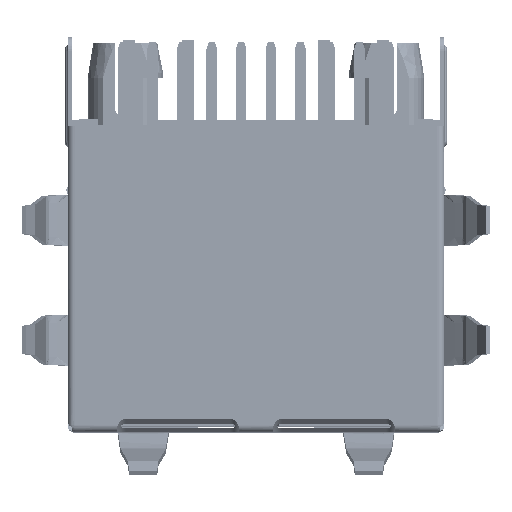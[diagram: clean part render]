
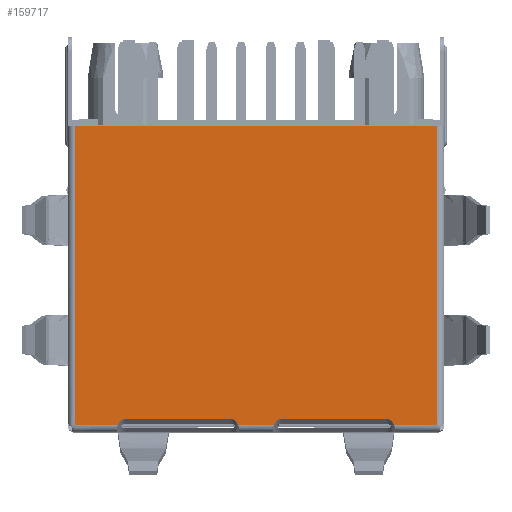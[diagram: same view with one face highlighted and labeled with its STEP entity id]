
A CAD part, top view. The second image highlights one B-rep face of the part: STEP entity #159717.
In plain terms, the highlighted planar face has unit normal (0, 0, 1) as drawn and (1, 0, 0) by its records, which use the part's own axes.
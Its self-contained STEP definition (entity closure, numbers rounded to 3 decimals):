
#153282=CARTESIAN_POINT('',(12.65,0.761,-6.275));
#153283=CARTESIAN_POINT('',(12.65,0.795,-6.197));
#153284=CARTESIAN_POINT('',(12.65,0.886,-6.074));
#153285=CARTESIAN_POINT('',(12.65,1.015,-6.009));
#153286=CARTESIAN_POINT('',(12.65,1.1,-6.009));
#153318=DIRECTION('',(0.,1.,0.));
#153319=VECTOR('',#153318,4.5);
#153320=CARTESIAN_POINT('',(12.65,1.1,-6.009));
#153321=LINE('',#153320,#153319);
#153322=CARTESIAN_POINT('',(12.65,-0.761,-6.275));
#153323=CARTESIAN_POINT('',(12.65,-0.795,-6.197));
#153324=CARTESIAN_POINT('',(12.65,-0.886,-6.074));
#153325=CARTESIAN_POINT('',(12.65,-1.015,-6.009));
#153326=CARTESIAN_POINT('',(12.65,-1.1,-6.009));
#153328=DIRECTION('',(0.,-1.,0.));
#153329=VECTOR('',#153328,4.5);
#153330=CARTESIAN_POINT('',(12.65,-1.1,-6.009));
#153331=LINE('',#153330,#153329);
#153332=CARTESIAN_POINT('',(12.65,-5.6,-6.009));
#153333=CARTESIAN_POINT('',(12.65,-5.685,-6.009));
#153334=CARTESIAN_POINT('',(12.65,-5.814,-6.074));
#153335=CARTESIAN_POINT('',(12.65,-5.905,-6.197));
#153336=CARTESIAN_POINT('',(12.65,-5.939,-6.275));
#153338=DIRECTION('',(0.,1.,0.));
#153339=VECTOR('',#153338,1.861);
#153340=CARTESIAN_POINT('',(12.65,5.939,-6.275));
#153341=LINE('',#153340,#153339);
#153372=CARTESIAN_POINT('',(12.65,5.6,-6.009));
#153373=CARTESIAN_POINT('',(12.65,5.685,-6.009));
#153374=CARTESIAN_POINT('',(12.65,5.814,-6.074));
#153375=CARTESIAN_POINT('',(12.65,5.905,-6.197));
#153376=CARTESIAN_POINT('',(12.65,5.939,-6.275));
#153518=DIRECTION('',(0.,0.,1.));
#153519=VECTOR('',#153518,12.85);
#153520=CARTESIAN_POINT('',(12.65,7.8,-6.275));
#153521=LINE('',#153520,#153519);
#153545=DIRECTION('',(0.,-1.,0.));
#153546=VECTOR('',#153545,15.6);
#153547=CARTESIAN_POINT('',(12.65,7.8,6.575));
#153548=LINE('',#153547,#153546);
#154289=DIRECTION('',(0.,1.,0.));
#154290=VECTOR('',#154289,1.522);
#154291=CARTESIAN_POINT('',(12.65,-0.761,-6.275));
#154292=LINE('',#154291,#154290);
#154301=DIRECTION('',(0.,1.,0.));
#154302=VECTOR('',#154301,1.861);
#154303=CARTESIAN_POINT('',(12.65,-7.8,-6.275));
#154304=LINE('',#154303,#154302);
#157219=DIRECTION('',(0.,0.,-1.));
#157220=VECTOR('',#157219,12.85);
#157221=CARTESIAN_POINT('',(12.65,-7.8,6.575));
#157222=LINE('',#157221,#157220);
#157671=CARTESIAN_POINT('',(12.65,1.1,-6.009));
#157672=CARTESIAN_POINT('',(12.65,5.6,-6.009));
#157673=VERTEX_POINT('',#157671);
#157674=VERTEX_POINT('',#157672);
#157687=CARTESIAN_POINT('',(12.65,5.939,-6.275));
#157688=CARTESIAN_POINT('',(12.65,7.8,-6.275));
#157689=VERTEX_POINT('',#157687);
#157690=VERTEX_POINT('',#157688);
#157691=VERTEX_POINT('',#153282);
#157692=CARTESIAN_POINT('',(12.65,-0.761,-6.275));
#157693=VERTEX_POINT('',#157692);
#157694=VERTEX_POINT('',#153326);
#157695=CARTESIAN_POINT('',(12.65,-5.6,-6.009));
#157696=VERTEX_POINT('',#157695);
#157697=VERTEX_POINT('',#153336);
#157698=CARTESIAN_POINT('',(12.65,-7.8,-6.275));
#157699=VERTEX_POINT('',#157698);
#157700=CARTESIAN_POINT('',(12.65,-7.8,6.575));
#157701=VERTEX_POINT('',#157700);
#157702=CARTESIAN_POINT('',(12.65,7.8,6.575));
#157703=VERTEX_POINT('',#157702);
#159688=CARTESIAN_POINT('',(12.65,-8.1,6.575));
#159689=DIRECTION('',(1.,0.,0.));
#159690=DIRECTION('',(0.,0.,-1.));
#159691=AXIS2_PLACEMENT_3D('',#159688,#159689,#159690);
#159692=PLANE('',#159691);
#159694=ORIENTED_EDGE('',*,*,#159693,.F.);
#159696=ORIENTED_EDGE('',*,*,#159695,.F.);
#159697=ORIENTED_EDGE('',*,*,#159679,.F.);
#159698=ORIENTED_EDGE('',*,*,#159629,.F.);
#159700=ORIENTED_EDGE('',*,*,#159699,.F.);
#159702=ORIENTED_EDGE('',*,*,#159701,.T.);
#159704=ORIENTED_EDGE('',*,*,#159703,.T.);
#159706=ORIENTED_EDGE('',*,*,#159705,.T.);
#159708=ORIENTED_EDGE('',*,*,#159707,.F.);
#159710=ORIENTED_EDGE('',*,*,#159709,.F.);
#159712=ORIENTED_EDGE('',*,*,#159711,.F.);
#159714=ORIENTED_EDGE('',*,*,#159713,.F.);
#159715=EDGE_LOOP('',(#159694,#159696,#159697,#159698,#159700,#159702,#159704,
#159706,#159708,#159710,#159712,#159714));
#159716=FACE_OUTER_BOUND('',#159715,.F.);
#153287=B_SPLINE_CURVE_WITH_KNOTS('',3,(#153282,#153283,#153284,#153285,
#153286),.UNSPECIFIED.,.F.,.F.,(4,1,4),(0.,0.5,1.),.UNSPECIFIED.);
#153327=B_SPLINE_CURVE_WITH_KNOTS('',3,(#153322,#153323,#153324,#153325,
#153326),.UNSPECIFIED.,.F.,.F.,(4,1,4),(0.,0.5,1.),.UNSPECIFIED.);
#153337=B_SPLINE_CURVE_WITH_KNOTS('',3,(#153332,#153333,#153334,#153335,
#153336),.UNSPECIFIED.,.F.,.F.,(4,1,4),(0.,0.5,1.),.UNSPECIFIED.);
#153377=B_SPLINE_CURVE_WITH_KNOTS('',3,(#153372,#153373,#153374,#153375,
#153376),.UNSPECIFIED.,.F.,.F.,(4,1,4),(0.,0.5,1.),.UNSPECIFIED.);
#159629=EDGE_CURVE('',#157691,#157673,#153287,.T.);
#159679=EDGE_CURVE('',#157673,#157674,#153321,.T.);
#159693=EDGE_CURVE('',#157689,#157690,#153341,.T.);
#159695=EDGE_CURVE('',#157674,#157689,#153377,.T.);
#159699=EDGE_CURVE('',#157693,#157691,#154292,.T.);
#159701=EDGE_CURVE('',#157693,#157694,#153327,.T.);
#159703=EDGE_CURVE('',#157694,#157696,#153331,.T.);
#159705=EDGE_CURVE('',#157696,#157697,#153337,.T.);
#159707=EDGE_CURVE('',#157699,#157697,#154304,.T.);
#159709=EDGE_CURVE('',#157701,#157699,#157222,.T.);
#159711=EDGE_CURVE('',#157703,#157701,#153548,.T.);
#159713=EDGE_CURVE('',#157690,#157703,#153521,.T.);
#159717=ADVANCED_FACE('',(#159716),#159692,.T.);
